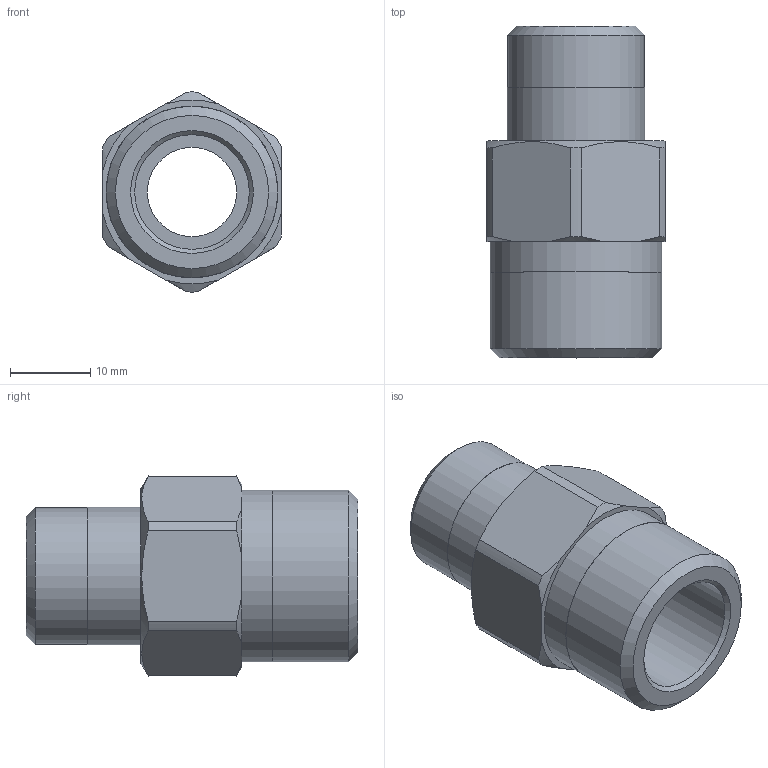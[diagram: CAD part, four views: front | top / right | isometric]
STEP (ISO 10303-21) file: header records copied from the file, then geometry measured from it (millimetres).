
FILE_DESCRIPTION(/* description */ (''),/* implementation_level */ '2;1');
FILE_NAME(/* name */ 'C:/Users/drich/Desktop/MR50-6 v1.step',/* time_stamp */ '2020-02-09T10:58:08-06:00',/* author */ (''),/* organization */ (''),/* preprocessor_version */ 'ST-DEVELOPER v18',/* originating_system */ 'Autodesk Translation Framework v8.12.0.6',/* authorisation */ '');
FILE_SCHEMA (('AUTOMOTIVE_DESIGN { 1 0 10303 214 3 1 1 }'));
Length unit declared in the file: inch
Products named in the file (1): MR50-6
Bounding box: 22.23 x 41.27 x 24.89 mm (x, y, z)
Volume: 8268 mm3; surface area: 4860.1 mm2
Topology: 1 solids, 1 shells, 36 faces, 95 edges, 66 vertices
Faces by surface type: plane 13, cylinder 12, cone 11
Full cylindrical faces by diameter (mm): 11.1 x1, 14.275 x1, 17.018 x1, 17.069 x1, 21.336 x1, 21.387 x1
Entity records: 1179 total; most frequent: CARTESIAN_POINT 234, DIRECTION 199, ORIENTED_EDGE 190, EDGE_CURVE 95, AXIS2_PLACEMENT_3D 85, VERTEX_POINT 66, CIRCLE 48, EDGE_LOOP 43
